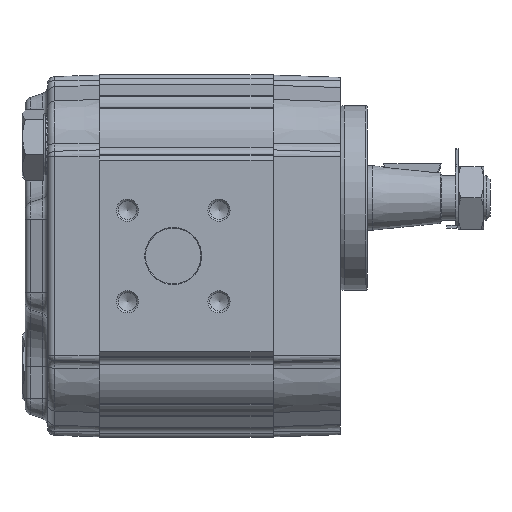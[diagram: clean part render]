
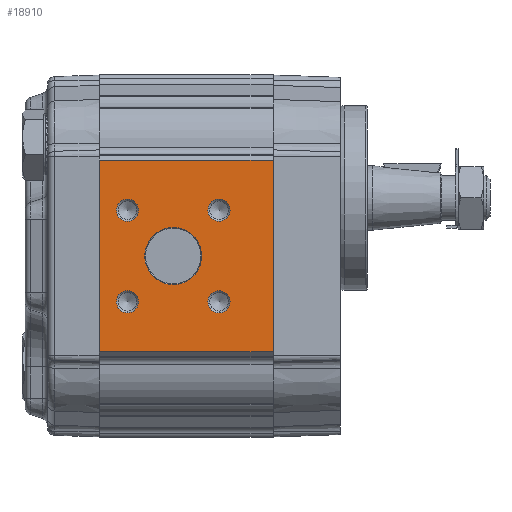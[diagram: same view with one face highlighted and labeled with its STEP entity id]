
A CAD part, left-side view. The second image highlights one B-rep face of the part: STEP entity #18910.
In plain terms, the highlighted planar face has unit normal (-1, 0, 0) as drawn and (1, 0, 0) by its records, which use the part's own axes.
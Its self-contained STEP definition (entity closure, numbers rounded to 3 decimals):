
#723=PLANE('',#19862);
#1068=LINE('',#27789,#1995);
#1069=LINE('',#27792,#1996);
#1070=LINE('',#27794,#1997);
#1071=LINE('',#27796,#1998);
#1995=VECTOR('',#21954,1000.);
#1996=VECTOR('',#21955,1000.);
#1997=VECTOR('',#21956,1000.);
#1998=VECTOR('',#21957,1000.);
#3596=ORIENTED_EDGE('',*,*,#7458,.T.);
#3597=ORIENTED_EDGE('',*,*,#7459,.T.);
#3598=ORIENTED_EDGE('',*,*,#7460,.T.);
#3599=ORIENTED_EDGE('',*,*,#7461,.T.);
#3600=ORIENTED_EDGE('',*,*,#7462,.T.);
#3601=ORIENTED_EDGE('',*,*,#7463,.F.);
#3602=ORIENTED_EDGE('',*,*,#7464,.F.);
#3603=ORIENTED_EDGE('',*,*,#7465,.T.);
#3604=ORIENTED_EDGE('',*,*,#7466,.T.);
#7458=EDGE_CURVE('',#9469,#9469,#10782,.F.);
#7459=EDGE_CURVE('',#9470,#9470,#10783,.F.);
#7460=EDGE_CURVE('',#9471,#9471,#10784,.F.);
#7461=EDGE_CURVE('',#9472,#9472,#10785,.F.);
#7462=EDGE_CURVE('',#9473,#9473,#10786,.F.);
#7463=EDGE_CURVE('',#9474,#9475,#1068,.T.);
#7464=EDGE_CURVE('',#9476,#9474,#1069,.T.);
#7465=EDGE_CURVE('',#9476,#9477,#1070,.T.);
#7466=EDGE_CURVE('',#9477,#9475,#1071,.T.);
#9469=VERTEX_POINT('',#27780);
#9470=VERTEX_POINT('',#27782);
#9471=VERTEX_POINT('',#27784);
#9472=VERTEX_POINT('',#27786);
#9473=VERTEX_POINT('',#27788);
#9474=VERTEX_POINT('',#27790);
#9475=VERTEX_POINT('',#27791);
#9476=VERTEX_POINT('',#27793);
#9477=VERTEX_POINT('',#27795);
#10782=CIRCLE('',#19863,7.7);
#10783=CIRCLE('',#19864,3.);
#10784=CIRCLE('',#19865,3.);
#10785=CIRCLE('',#19866,3.);
#10786=CIRCLE('',#19867,3.);
#11678=EDGE_LOOP('',(#3596));
#11679=EDGE_LOOP('',(#3597));
#11680=EDGE_LOOP('',(#3598));
#11681=EDGE_LOOP('',(#3599));
#11682=EDGE_LOOP('',(#3600));
#11683=EDGE_LOOP('',(#3601,#3602,#3603,#3604));
#12617=FACE_BOUND('',#11678,.T.);
#12618=FACE_BOUND('',#11679,.T.);
#12619=FACE_BOUND('',#11680,.T.);
#12620=FACE_BOUND('',#11681,.T.);
#12621=FACE_BOUND('',#11682,.T.);
#12622=FACE_BOUND('',#11683,.T.);
#18910=ADVANCED_FACE('',(#12617,#12618,#12619,#12620,#12621,#12622),#723,
 .T.);
#19862=AXIS2_PLACEMENT_3D('',#27778,#21942,#21943);
#19863=AXIS2_PLACEMENT_3D('',#27779,#21944,#21945);
#19864=AXIS2_PLACEMENT_3D('',#27781,#21946,#21947);
#19865=AXIS2_PLACEMENT_3D('',#27783,#21948,#21949);
#19866=AXIS2_PLACEMENT_3D('',#27785,#21950,#21951);
#19867=AXIS2_PLACEMENT_3D('',#27787,#21952,#21953);
#21942=DIRECTION('',(1.,0.,0.));
#21943=DIRECTION('',(0.,0.,-1.));
#21944=DIRECTION('',(1.,0.,0.));
#21945=DIRECTION('',(0.,0.,-1.));
#21946=DIRECTION('',(1.,0.,0.));
#21947=DIRECTION('',(0.,0.,-1.));
#21948=DIRECTION('',(1.,0.,0.));
#21949=DIRECTION('',(0.,0.,-1.));
#21950=DIRECTION('',(1.,0.,0.));
#21951=DIRECTION('',(0.,0.,-1.));
#21952=DIRECTION('',(1.,0.,0.));
#21953=DIRECTION('',(0.,0.,-1.));
#21954=DIRECTION('',(0.,0.,1.));
#21955=DIRECTION('',(0.,-1.,0.));
#21956=DIRECTION('',(0.,0.,1.));
#21957=DIRECTION('',(0.,-1.,0.));
#27778=CARTESIAN_POINT('',(45.,47.,-25.912));
#27779=CARTESIAN_POINT('',(45.,27.,0.));
#27780=CARTESIAN_POINT('',(45.,27.,-7.7));
#27781=CARTESIAN_POINT('',(45.,39.374,-12.374));
#27782=CARTESIAN_POINT('',(45.,39.374,-15.374));
#27783=CARTESIAN_POINT('',(45.,14.626,-12.374));
#27784=CARTESIAN_POINT('',(45.,14.626,-15.374));
#27785=CARTESIAN_POINT('',(45.,39.374,12.374));
#27786=CARTESIAN_POINT('',(45.,39.374,9.374));
#27787=CARTESIAN_POINT('',(45.,14.626,12.374));
#27788=CARTESIAN_POINT('',(45.,14.626,9.374));
#27789=CARTESIAN_POINT('',(45.,0.,-25.912));
#27790=CARTESIAN_POINT('',(45.,0.,-25.912));
#27791=CARTESIAN_POINT('',(45.,0.,25.912));
#27792=CARTESIAN_POINT('',(45.,47.,-25.912));
#27793=CARTESIAN_POINT('',(45.,47.,-25.912));
#27794=CARTESIAN_POINT('',(45.,47.,-25.912));
#27795=CARTESIAN_POINT('',(45.,47.,25.912));
#27796=CARTESIAN_POINT('',(45.,47.,25.912));
